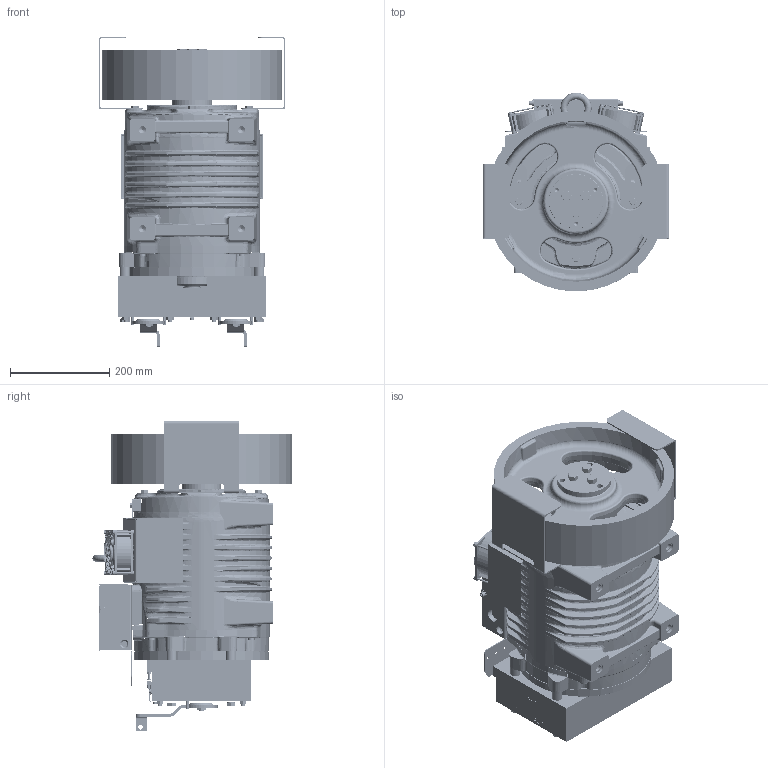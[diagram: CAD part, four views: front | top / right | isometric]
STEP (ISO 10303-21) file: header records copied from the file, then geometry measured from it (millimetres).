
FILE_DESCRIPTION((''),'2;1');
FILE_NAME('00366577_ASM','2023-06-05T12:21:03',('AsgharM'),('Sicor spa'),'CREO PARAMETRIC BY PTC INC, 2022164','CREO PARAMETRIC BY PTC INC, 2022164','');
FILE_SCHEMA(('CONFIG_CONTROL_DESIGN'));
Products named in the file (18): SG30_2023; G__360; _360_100; 00073486; GROWER_M12_GRO0002; TEM12X45_VIT0222; 00246001; M4_FTT_C; 00254619_ASM; 00254091; 00254090; 00254089_ASM; 00257271; 00042420_M4X50; TEM6X12_VIR0184; 00000263; 00257441_ASM; 00366577_ASM
Assembly tree (39 placements, depth 4):
  00366577_ASM
    SG30_2023
    G__360  x2
    _360_100
    00073486
    GROWER_M12_GRO0002  x3
    TEM12X45_VIT0222  x3
    00257441_ASM
      00254619_ASM
        00246001
        M4_FTT_C  x8
      00254089_ASM  x2
        00254091
        00254090
      00257271  x2
      00042420_M4X50  x8
      TEM6X12_VIR0184  x2
      00000263
Bounding box: 377 x 401.99 x 627.52 mm (x, y, z)
Volume: 4976034.1 mm3; surface area: 2102030.6 mm2
Topology: 36 solids, 289 shells, 5113 faces, 17541 edges, 12524 vertices
Faces by surface type: plane 1979, cylinder 1220, bspline 1011, torus 450, cone 419, sphere 34
Entity records: 245514 total; most frequent: CARTESIAN_POINT 116667, ORIENTED_EDGE 25094, DIRECTION 24567, EDGE_CURVE 16065, VERTEX_POINT 11651, VECTOR 9149, LINE 9149, AXIS2_PLACEMENT_3D 7709
